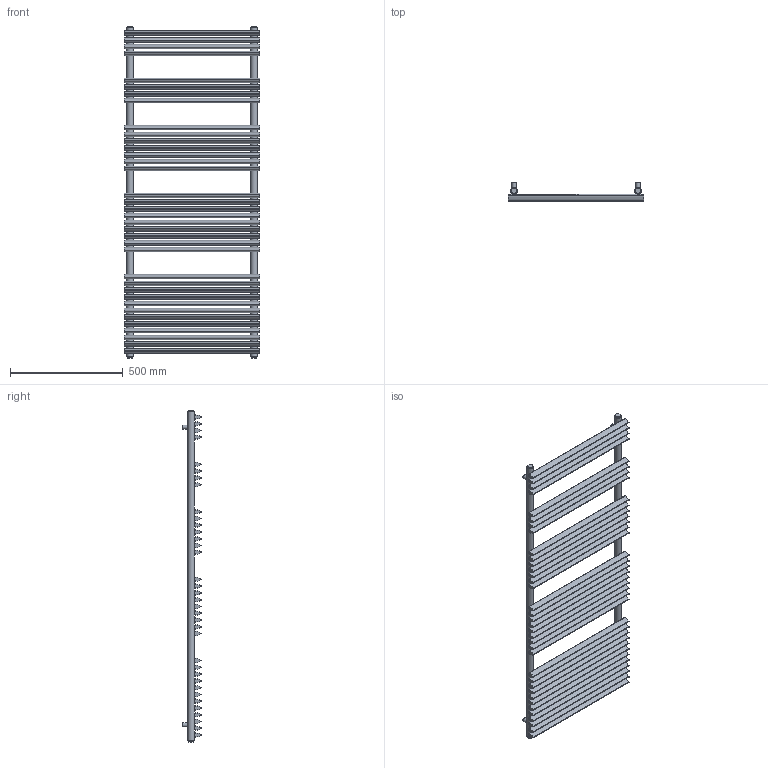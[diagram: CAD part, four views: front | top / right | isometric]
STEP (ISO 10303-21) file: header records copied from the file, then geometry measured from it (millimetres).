
FILE_DESCRIPTION(/* description */ (''),/* implementation_level */ '2;1');
FILE_NAME(/* name */ 'C:\Grzejniki\13DLUXRAD\łazienkowe\CALIDO\CALIDO 1460x600.iam.stp',/* time_stamp */ '2016-06-28T17:34:23+02:00',/* author */ ('m.szydziak'),/* organization */ (''),/* preprocessor_version */ 'ST-DEVELOPER v16.5',/* originating_system */ 'Autodesk Inventor 2017',/* authorisation */ '');
FILE_SCHEMA (('AUTOMOTIVE_DESIGN { 1 0 10303 214 3 1 1 }'));
Length unit declared in the file: millimetre
Products named in the file (5): CALIDO 1460x600; fi30x1,5x1460; 30x20x1,2x600; uchwyt stały; korek
Assembly tree (46 placements, depth 2):
  CALIDO 1460x600
    fi30x1,5x1460  x2
    30x20x1,2x600  x36
    uchwyt stały  x4
    korek  x4
Bounding box: 600 x 82 x 1472 mm (x, y, z)
Volume: 2397851.9 mm3; surface area: 3856052.5 mm2
Topology: 46 solids, 46 shells, 740 faces, 2010 edges, 1438 vertices
Faces by surface type: cylinder 524, plane 216
Full cylindrical faces by diameter (mm): 5 x72, 6 x72, 15 x4, 18 x4, 18.631 x4, 24 x4, 27 x2, 30 x2
Entity records: 5473 total; most frequent: CARTESIAN_POINT 3078, ORIENTED_EDGE 386, DIRECTION 384, EDGE_LOOP 206, EDGE_CURVE 193, AXIS2_PLACEMENT_3D 175, VERTEX_POINT 171, FACE_BOUND 127
